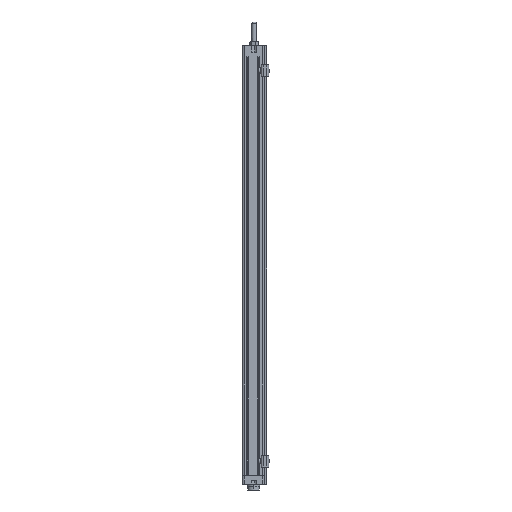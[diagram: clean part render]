
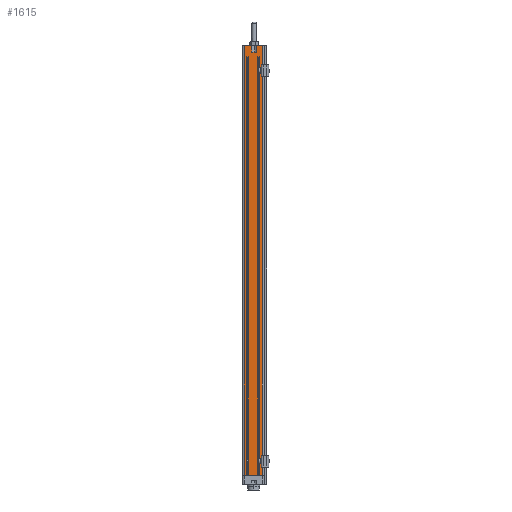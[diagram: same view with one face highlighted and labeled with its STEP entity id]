
A CAD part, left-side view. The second image highlights one B-rep face of the part: STEP entity #1615.
In plain terms, the highlighted planar face has unit normal (-1, 0, 0).
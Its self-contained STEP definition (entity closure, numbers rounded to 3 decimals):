
#1615=ADVANCED_FACE('',(#3459),#3460,.T.);
#3459=FACE_OUTER_BOUND('',#5622,.T.);
#3460=PLANE('',#5623);
#5622=EDGE_LOOP('',(#10275,#10276,#10277,#10278,#10279,#10280,#10281,#10282,#10283,#10284,#10285,#10286,#10287,#10288,#10289,#10290));
#5623=AXIS2_PLACEMENT_3D('',#10291,#10292,#10293);
#10275=ORIENTED_EDGE('',*,*,#13926,.F.);
#10276=ORIENTED_EDGE('',*,*,#13929,.T.);
#10277=ORIENTED_EDGE('',*,*,#13930,.T.);
#10278=ORIENTED_EDGE('',*,*,#13931,.T.);
#10279=ORIENTED_EDGE('',*,*,#13932,.F.);
#10280=ORIENTED_EDGE('',*,*,#13933,.T.);
#10281=ORIENTED_EDGE('',*,*,#13934,.T.);
#10282=ORIENTED_EDGE('',*,*,#13935,.T.);
#10283=ORIENTED_EDGE('',*,*,#13936,.F.);
#10284=ORIENTED_EDGE('',*,*,#13937,.T.);
#10285=ORIENTED_EDGE('',*,*,#13938,.T.);
#10286=ORIENTED_EDGE('',*,*,#13939,.F.);
#10287=ORIENTED_EDGE('',*,*,#13940,.F.);
#10288=ORIENTED_EDGE('',*,*,#13941,.F.);
#10289=ORIENTED_EDGE('',*,*,#13942,.T.);
#10290=ORIENTED_EDGE('',*,*,#13943,.F.);
#10291=CARTESIAN_POINT('',(0.0,27.0,-136.5));
#10292=DIRECTION('',(-1.0,0.0,0.0));
#10293=DIRECTION('',(0.0,0.0,1.0));
#13926=EDGE_CURVE('',#17006,#17008,#17009,.T.);
#13929=EDGE_CURVE('',#17006,#17012,#17013,.T.);
#13930=EDGE_CURVE('',#17012,#17014,#17015,.T.);
#13931=EDGE_CURVE('',#17014,#17016,#17017,.T.);
#13932=EDGE_CURVE('',#17018,#17016,#17019,.T.);
#13933=EDGE_CURVE('',#17018,#17020,#17021,.T.);
#13934=EDGE_CURVE('',#17020,#17022,#17023,.T.);
#13935=EDGE_CURVE('',#17022,#17024,#17025,.T.);
#13936=EDGE_CURVE('',#17026,#17024,#17027,.T.);
#13937=EDGE_CURVE('',#17026,#17028,#17029,.T.);
#13938=EDGE_CURVE('',#17028,#17030,#17031,.T.);
#13939=EDGE_CURVE('',#17032,#17030,#17033,.T.);
#13940=EDGE_CURVE('',#17034,#17032,#17035,.T.);
#13941=EDGE_CURVE('',#17036,#17034,#17037,.T.);
#13942=EDGE_CURVE('',#17036,#17038,#17039,.T.);
#13943=EDGE_CURVE('',#17008,#17038,#17040,.T.);
#17006=VERTEX_POINT('',#21468);
#17008=VERTEX_POINT('',#21470);
#17009=LINE('',#21471,#21472);
#17012=VERTEX_POINT('',#21475);
#17013=LINE('',#21476,#21477);
#17014=VERTEX_POINT('',#21478);
#17015=LINE('',#21479,#21480);
#17016=VERTEX_POINT('',#21481);
#17017=LINE('',#21482,#21483);
#17018=VERTEX_POINT('',#21484);
#17019=LINE('',#21485,#21486);
#17020=VERTEX_POINT('',#21487);
#17021=LINE('',#21488,#21489);
#17022=VERTEX_POINT('',#21490);
#17023=LINE('',#21491,#21492);
#17024=VERTEX_POINT('',#21493);
#17025=LINE('',#21494,#21495);
#17026=VERTEX_POINT('',#21496);
#17027=LINE('',#21497,#21498);
#17028=VERTEX_POINT('',#21499);
#17029=LINE('',#21500,#21501);
#17030=VERTEX_POINT('',#21502);
#17031=LINE('',#21503,#21504);
#17032=VERTEX_POINT('',#21505);
#17033=LINE('',#21506,#21507);
#17034=VERTEX_POINT('',#21508);
#17035=LINE('',#21509,#21510);
#17036=VERTEX_POINT('',#21511);
#17037=LINE('',#21512,#21513);
#17038=VERTEX_POINT('',#21514);
#17039=LINE('',#21515,#21516);
#17040=LINE('',#21517,#21518);
#21468=CARTESIAN_POINT('',(0.0,29.5,-136.5));
#21470=CARTESIAN_POINT('',(0.,29.5,424.3));
#21471=CARTESIAN_POINT('',(0.0,29.5,-136.5));
#21472=VECTOR('',#24970,560.8);
#21475=CARTESIAN_POINT('',(0.0,27.0,-136.5));
#21476=CARTESIAN_POINT('',(0.0,29.5,-136.5));
#21477=VECTOR('',#24974,2.5);
#21478=CARTESIAN_POINT('',(0.0,27.0,410.0));
#21479=CARTESIAN_POINT('',(0.0,27.0,-136.5));
#21480=VECTOR('',#24975,546.5);
#21481=CARTESIAN_POINT('',(0.0,24.4,410.0));
#21482=CARTESIAN_POINT('',(0.,27.0,410.0));
#21483=VECTOR('',#24976,2.6);
#21484=CARTESIAN_POINT('',(0.0,24.4,-136.5));
#21485=CARTESIAN_POINT('',(0.0,24.4,-136.5));
#21486=VECTOR('',#24977,546.5);
#21487=CARTESIAN_POINT('',(0.0,11.6,-136.5));
#21488=CARTESIAN_POINT('',(0.0,24.4,-136.5));
#21489=VECTOR('',#24978,12.8);
#21490=CARTESIAN_POINT('',(0.0,11.6,410.0));
#21491=CARTESIAN_POINT('',(0.0,11.6,-136.5));
#21492=VECTOR('',#24979,546.5);
#21493=CARTESIAN_POINT('',(0.0,9.,410.0));
#21494=CARTESIAN_POINT('',(0.,11.6,410.0));
#21495=VECTOR('',#24980,2.6);
#21496=CARTESIAN_POINT('',(0.0,9.0,-136.5));
#21497=CARTESIAN_POINT('',(0.0,9.0,-136.5));
#21498=VECTOR('',#24981,546.5);
#21499=CARTESIAN_POINT('',(0.0,6.0,-136.5));
#21500=CARTESIAN_POINT('',(0.0,9.0,-136.5));
#21501=VECTOR('',#24982,3.0);
#21502=CARTESIAN_POINT('',(0.,6.,424.3));
#21503=CARTESIAN_POINT('',(0.0,6.0,-136.5));
#21504=VECTOR('',#24983,560.8);
#21505=CARTESIAN_POINT('',(0.,13.25,424.3));
#21506=CARTESIAN_POINT('',(0.,13.25,424.3));
#21507=VECTOR('',#24984,7.25);
#21508=CARTESIAN_POINT('',(0.,13.25,416.0));
#21509=CARTESIAN_POINT('',(0.,13.25,416.0));
#21510=VECTOR('',#24985,8.3);
#21511=CARTESIAN_POINT('',(0.,19.75,416.0));
#21512=CARTESIAN_POINT('',(0.,19.75,416.0));
#21513=VECTOR('',#24986,6.5);
#21514=CARTESIAN_POINT('',(0.,19.75,424.3));
#21515=CARTESIAN_POINT('',(0.,19.75,416.0));
#21516=VECTOR('',#24987,8.3);
#21517=CARTESIAN_POINT('',(0.,29.5,424.3));
#21518=VECTOR('',#24988,9.75);
#24970=DIRECTION('',(0.0,0.0,1.0));
#24974=DIRECTION('',(0.0,-1.0,0.0));
#24975=DIRECTION('',(0.0,0.0,1.0));
#24976=DIRECTION('',(0.0,-1.0,0.0));
#24977=DIRECTION('',(0.0,0.0,1.0));
#24978=DIRECTION('',(0.0,-1.0,0.0));
#24979=DIRECTION('',(0.0,0.0,1.0));
#24980=DIRECTION('',(0.0,-1.0,0.0));
#24981=DIRECTION('',(0.0,0.0,1.0));
#24982=DIRECTION('',(0.0,-1.0,0.0));
#24983=DIRECTION('',(0.0,0.0,1.0));
#24984=DIRECTION('',(0.0,-1.0,0.0));
#24985=DIRECTION('',(0.0,0.0,1.0));
#24986=DIRECTION('',(0.0,-1.0,0.0));
#24987=DIRECTION('',(0.0,0.0,1.0));
#24988=DIRECTION('',(0.0,-1.0,0.0));
